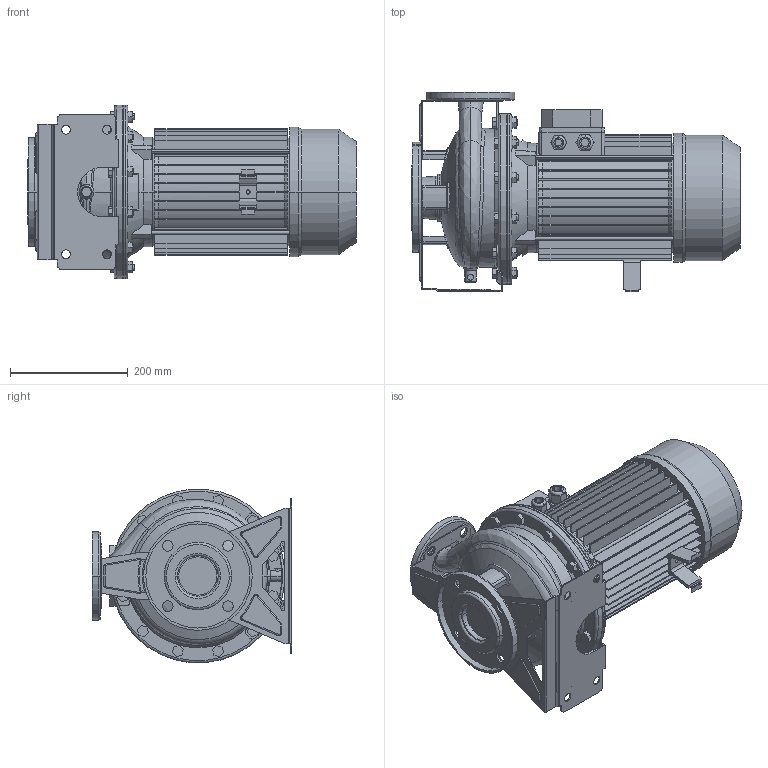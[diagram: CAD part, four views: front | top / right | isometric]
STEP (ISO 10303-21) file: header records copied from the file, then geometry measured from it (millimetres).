
FILE_DESCRIPTION((''),'2;1');
FILE_NAME('3M_40-200_7_5_IE3_ASM','2014-07-28T',('Rosa'),('"Ebara Pumps Europe +39.444.706811"'),'PRO/ENGINEER BY PARAMETRIC TECHNOLOGY CORPORATION, 2009360','PRO/ENGINEER BY PARAMETRIC TECHNOLOGY CORPORATION, 2009360','');
FILE_SCHEMA(('AUTOMOTIVE_DESIGN { 1 0 10303 214 1 1 1 1 }'));
Length unit declared in the file: millimetre
Products named in the file (11): CORPO_40-200_AF1; ASP_40-200; FLANGIA_DIN_65; MAND_40-200; FLANGIA_DIN_40; BASE_3M_40-200; CORPO_SALDATO_40-200_ASM; SUPPORTO_3M_230_112; MEC_112X200_IE3; SOSTEGNO_72008; 3M_40-200_7_5_IE3_ASM
Assembly tree (10 placements, depth 3):
  3M_40-200_7_5_IE3_ASM
    CORPO_SALDATO_40-200_ASM
      CORPO_40-200_AF1
      ASP_40-200
      FLANGIA_DIN_65
      MAND_40-200
      FLANGIA_DIN_40
      BASE_3M_40-200
    SUPPORTO_3M_230_112
    MEC_112X200_IE3
    SOSTEGNO_72008
Bounding box: 559 x 340 x 295.13 mm (x, y, z)
Volume: 12789361.6 mm3; surface area: 1516956.4 mm2
Topology: 12 solids, 12 shells, 1116 faces, 2829 edges, 1808 vertices
Faces by surface type: plane 607, cylinder 311, cone 96, torus 62, bspline 34, sphere 6
Entity records: 48521 total; most frequent: CARTESIAN_POINT 9550, DIRECTION 5768, ORIENTED_EDGE 5658, PRESENTATION_STYLE_ASSIGNMENT 2841, STYLED_ITEM 2841, CURVE_STYLE 2829, EDGE_CURVE 2829, AXIS2_PLACEMENT_3D 2085
